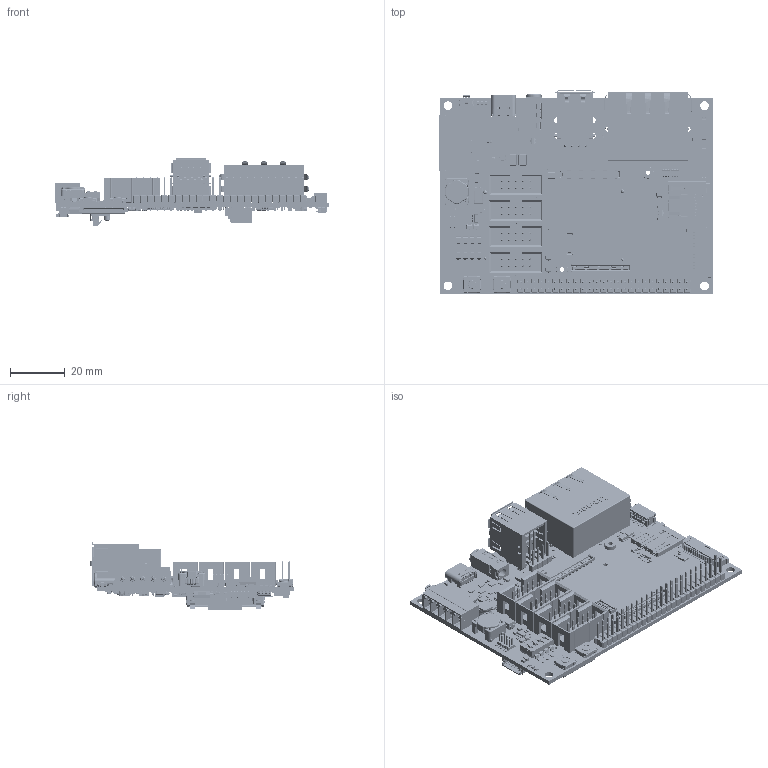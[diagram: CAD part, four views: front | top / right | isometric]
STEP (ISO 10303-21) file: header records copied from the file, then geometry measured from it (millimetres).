
FILE_DESCRIPTION(('Open CASCADE Model'),'2;1');
FILE_NAME('Open CASCADE Shape Model','2025-03-27T15:39:46',('Author'),( 'Open CASCADE'),'Open CASCADE STEP processor 7.5','Open CASCADE 7.5' ,'Unknown');
FILE_SCHEMA(('AUTOMOTIVE_DESIGN { 1 0 10303 214 1 1 1 1 }'));
Length unit declared in the file: millimetre
Products named in the file (761): PCB; Board; Open CASCADE STEP translator 7.5 2.1.1; R104; 6906771072; Mid_Body; Terminal; Open CASCADE STEP translator 6.8 2.2.1; Mark; R68; R74; 6906770912; R103; J13; FI-X30SSLA-HF; U16; 6907044864; Body; Open CASCADE STEP translator 6.8 2.1.1; Leader; Y1; XTALD-4-302X205M; XTALD-4-2X106M; ABM11; R61; J24; Header 4; F3; mf-psmf110x; C68; 6906770592; Open CASCADE STEP translator 6.8 3.1.1; Open CASCADE STEP translator 6.8 3.1.2; Open CASCADE STEP translator 6.8 3.2.1; C67; 6906772192; C52; C51; C48; J1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
Assembly tree (1273 placements, depth 8):
  PCB
    Board
      Open CASCADE STEP translator 7.5 2.1.1
    R104
      6906771072
        Mid_Body
        Terminal  x2
          Open CASCADE STEP translator 6.8 2.2.1
        Mark
    R68
      6906771072
        Mid_Body
        Terminal  x2
          Open CASCADE STEP translator 6.8 2.2.1
        Mark
    R74
      6906770912
        Mid_Body
        Terminal  x2
          Open CASCADE STEP translator 6.8 2.2.1
        Mark
    R103
      6906770912
        Mid_Body
        Terminal  x2
          Open CASCADE STEP translator 6.8 2.2.1
        Mark
    J13
      FI-X30SSLA-HF
    U16
      6907044864
        Body
          Open CASCADE STEP translator 6.8 2.1.1
        Leader  x6
    Y1
      XTALD-4-302X205M
      XTALD-4-302X205M
      XTALD-4-302X205M
      XTALD-4-302X205M
      XTALD-4-2X106M
        XTALD-4-2X106M
          ABM11
    R61
      6906771072
        Mid_Body
        Terminal  x2
          Open CASCADE STEP translator 6.8 2.2.1
        Mark
    J24
      Header 4
    F3
      mf-psmf110x
    C68
      6906770592
        Terminal
          Open CASCADE STEP translator 6.8 3.1.1
          Open CASCADE STEP translator 6.8 3.1.2
        Mid_Body
          Open CASCADE STEP translator 6.8 3.2.1
    C67
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Bounding box: 100.17 x 74.76 x 24.57 mm (x, y, z)
Volume: 31884.8 mm3; surface area: 55257.7 mm2
Topology: 1528 solids, 1575 shells, 45757 faces, 115507 edges, 72495 vertices
Faces by surface type: plane 32289, cylinder 9687, bspline 1453, sphere 1327, torus 611, extrusion 257, cone 127, revolution 6
Full cylindrical faces by diameter (mm): 0.256 x1, 0.3 x1, 0.338 x1, 0.342 x2, 0.381 x1, 0.5 x1, 0.562 x2, 0.6 x2, 0.75 x4, 0.9 x20, 0.95 x8, 1 x90, 1.02 x12, 1.05 x1, 1.1 x2, 1.4 x5, 1.55 x1, 1.6 x1, 1.623 x2, 1.7 x2, 1.9 x5, 2.3 x4, 2.8 x2, 3 x4, 3.2 x4, 4.35 x2
Entity records: 878667 total; most frequent: CARTESIAN_POINT 181196, ORIENTED_EDGE 118103, DIRECTION 109903, EDGE_CURVE 59142, VECTOR 44011, LINE 43770, VERTEX_POINT 38222, AXIS2_PLACEMENT_3D 32943
